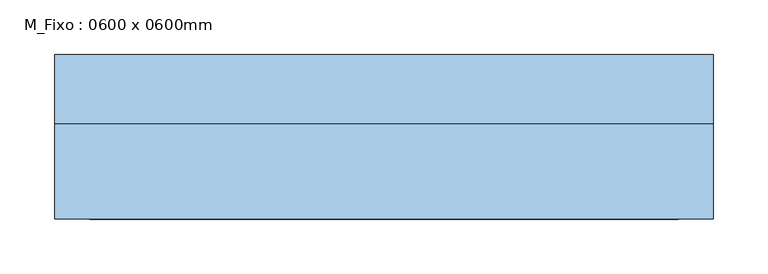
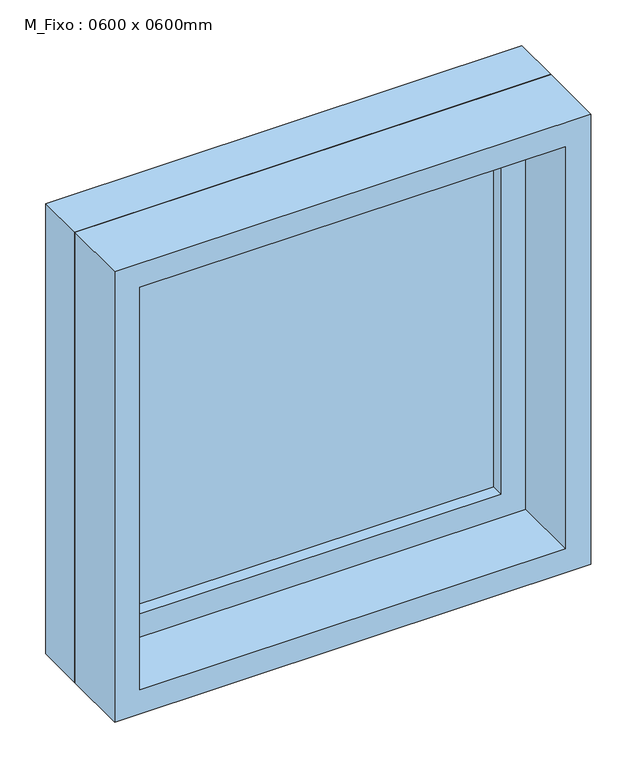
"""IFC4 building model written with IfcOpenShell, lengths in millimetres: window geometry, M_Fixo : 0600 x 0600mm."""

from ifc_helpers import new_model, si_unit, frame, origin, place, context, project, spatial, polyline, outline, extrude, source, transform, mapped, element, save


def m_fixo_0600_x_0600mm_ee7814f6(model_context):
    return source(origin(), model_context, "Body", "SweptSolid", [
        extrude(outline(polyline([(-237.0, 53.0), (237.0, 53.0), (237.0, 41.0), (-237.0, 41.0), (-237.0, 53.0)])), frame((0.0, 0.0, 978.0), z_axis=(0.0, 0.0, 1.0), x_axis=(1.0, 0.0, 0.0)), (0.0, 0.0, 1.0), 474.0),
        extrude(outline(polyline([(1496.0, -281.0), (934.0, -281.0), (934.0, 281.0), (1496.0, 281.0), (1496.0, -281.0)]), holes=[polyline([(1452.0, -237.0), (1452.0, 237.0), (978.0, 237.0), (978.0, -237.0), (1452.0, -237.0)])]), frame((0.0, 25.0, 0.0), z_axis=(0.0, 1.0, 0.0), x_axis=(0.0, 0.0, 1.0)), (0.0, 0.0, 1.0), 44.0),
        extrude(outline(polyline([(1515.0, -300.0), (915.0, -300.0), (915.0, 300.0), (1515.0, 300.0), (1515.0, -300.0)]), holes=[polyline([(1496.0, -281.0), (1496.0, 281.0), (934.0, 281.0), (934.0, -281.0), (1496.0, -281.0)])]), frame((0.0, 25.0, 0.0), z_axis=(0.0, 1.0, 0.0), x_axis=(0.0, 0.0, 1.0)), (0.0, 0.0, 1.0), 63.0),
        extrude(outline(polyline([(1515.0, -300.0), (915.0, -300.0), (915.0, 300.0), (1515.0, 300.0), (1515.0, -300.0)]), holes=[polyline([(1483.0, -268.0), (1483.0, 268.0), (947.0, 268.0), (947.0, -268.0), (1483.0, -268.0)])]), frame((0.0, -62.0, 0.0), z_axis=(0.0, 1.0, 0.0), x_axis=(0.0, 0.0, 1.0)), (0.0, 0.0, 1.0), 87.0),
    ])


if __name__ == "__main__":
    model = new_model("IFC4")
    model_context = context("Model", 3, world=origin())
    ifc_project = project(units=[si_unit("LENGTHUNIT", "METRE", prefix="MILLI")], contexts=[model_context])
    site = spatial("IfcSite", under=ifc_project)
    building = spatial("IfcBuilding", under=site)
    placement = place(None, origin())
    m_fixo_0600_x_0600mm_shape = m_fixo_0600_x_0600mm_ee7814f6(model_context)
    element("IfcWindow", 1, ObjectType="M_Fixo : 0600 x 0600mm", at=placement, inside=building, context=model_context, shape_type="MappedRepresentation", body=[
        mapped(m_fixo_0600_x_0600mm_shape, transform((0.0, 0.0, 0.0), x_axis=(1.0, 0.0, 0.0), y_axis=(0.0, 1.0, 0.0), z_axis=(0.0, 0.0, 1.0))),
    ])
    save(model, "model.ifc")
